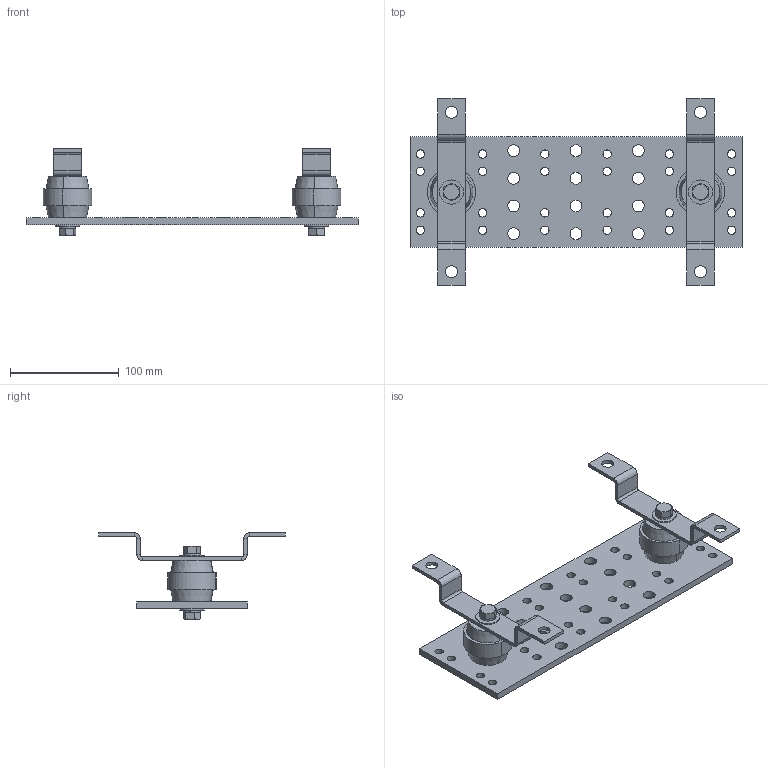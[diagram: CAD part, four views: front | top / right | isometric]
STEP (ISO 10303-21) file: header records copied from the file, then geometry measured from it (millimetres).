
FILE_DESCRIPTION (( 'STEP AP214' ), '1' );
FILE_NAME ('dgtb412.STEP', '2008-01-09T20:28:10', ( '' ), ( '' ), 'SwSTEP 2.0', 'SolidWorks 2007', '' );
FILE_SCHEMA (( 'AUTOMOTIVE_DESIGN' ));
Length unit declared in the file: inch
Products named in the file (8): SubassyScr; dgtb412; WasherFlat,.406D.872ODX.05; WasherLockSplit_.312_Regular LW 0.3125; SCR_HXHDCP_375X.75T; BrktMtgTelco; StandoffTelco; TelcoGroundBar4in_12
Assembly tree (12 placements, depth 3):
  dgtb412
    SubassyScr  x4
      SCR_HXHDCP_375X.75T
      WasherFlat,.406D.872ODX.05
      WasherLockSplit_.312_Regular LW 0.3125
    TelcoGroundBar4in_12
    StandoffTelco  x2
    BrktMtgTelco  x2
Bounding box: 304.8 x 171.3 x 79.45 mm (x, y, z)
Volume: 319545.7 mm3; surface area: 118757.3 mm2
Topology: 17 solids, 17 shells, 554 faces, 1216 edges, 700 vertices
Faces by surface type: cone 272, cylinder 148, plane 134
Entity records: 7232 total; most frequent: DIRECTION 1310, CARTESIAN_POINT 1193, ORIENTED_EDGE 1092, EDGE_CURVE 546, AXIS2_PLACEMENT_3D 529, VERTEX_POINT 332, EDGE_LOOP 320, CIRCLE 282
